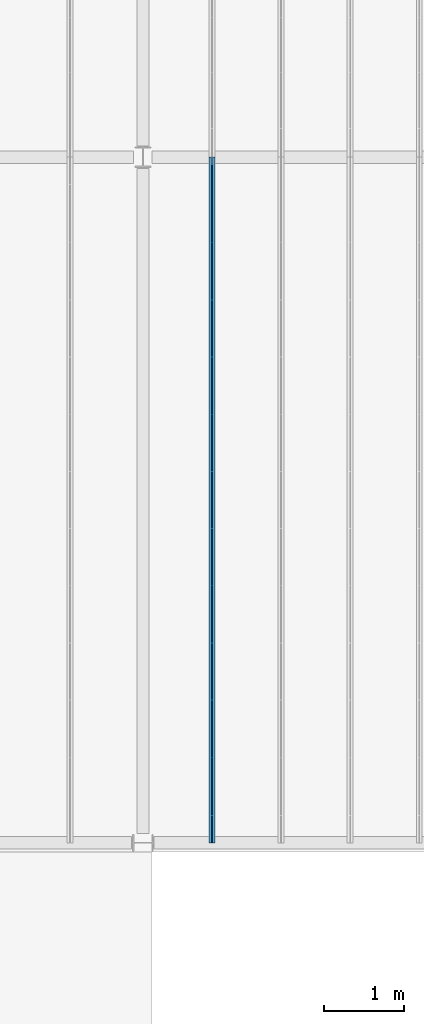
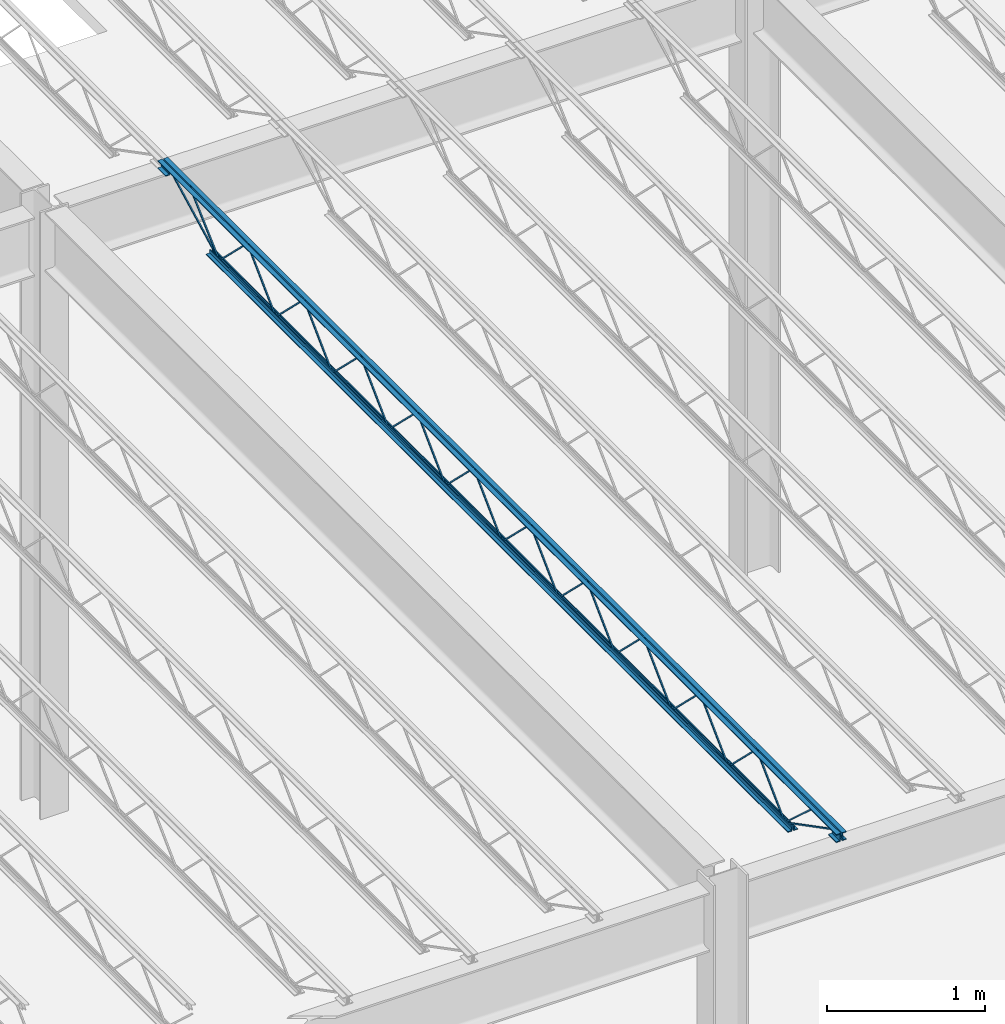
# One storey, part 46 of 119: 1 beam.
"""IFC2X3 building model written with IfcOpenShell, lengths in metres."""

import ifcopenshell
import ifcopenshell.guid

model = None  # the IFC model being written
_history = None  # IfcOwnerHistory: only IFC2X3 demands one
_inside = {}  # id of a spatial element -> (the spatial element, [elements in it])
_under = {}  # id of a project, library or spatial element -> (it, [spatial elements below it])
_declared = {}  # id of a project -> (the project, [libraries it declares])
_typed = {}  # id of a type object -> (the type object, [elements of that type])
_made_of = {}  # id of a material, layer set ... -> (it, [elements and type objects made of it])


def new_model(schema):
    """Start an empty IFC model of exactly this schema.

    Asked for "IFC4X3", IfcOpenShell would pick the latest addendum, in which some entities
    have other attributes; the version numbers below select the first issue.
    IFC2X3 requires an IfcOwnerHistory on every rooted entity: one is made here for all.
    """
    global model, _history
    if schema == "IFC4X3":
        model = ifcopenshell.file(schema_version=(4, 3, 0, 0))
    else:
        model = ifcopenshell.file(schema=schema)
    _inside.clear()
    _under.clear()
    _declared.clear()
    _typed.clear()
    _made_of.clear()
    _history = None
    if model.schema == "IFC2X3":
        org = make("IfcOrganization", Name="unknown")
        user = make(
            "IfcPersonAndOrganization",
            ThePerson=make("IfcPerson", FamilyName="unknown"),
            TheOrganization=org,
        )
        app = make(
            "IfcApplication",
            ApplicationDeveloper=org,
            Version="unknown",
            ApplicationFullName="unknown",
            ApplicationIdentifier="unknown",
        )
        _history = make(
            "IfcOwnerHistory",
            OwningUser=user,
            OwningApplication=app,
            ChangeAction="ADDED",
            CreationDate=0,
        )
    return model


def make(cls, **values):
    """One entity of the class cls with the attributes given. An attribute that is None is left unset."""
    return model.create_entity(
        cls, **{name: value for name, value in values.items() if value is not None}
    )


def entity(cls, *values):
    """Any entity or typed value of the class cls, its attributes in the order of the schema. None: left unset."""
    e = model.create_entity(cls)
    for i, value in enumerate(values):
        if value is not None:
            e[i] = value
    return e


def rooted(cls, **values):
    """An entity with a GlobalId (a new one), such as an element, a storey or a relation."""
    return make(cls, GlobalId=ifcopenshell.guid.new(), OwnerHistory=_history, **values)


def si_unit(unit_type, name, prefix=None):
    """IfcSIUnit, for example si_unit("LENGTHUNIT", "METRE", prefix="MILLI")."""
    return make("IfcSIUnit", UnitType=unit_type, Prefix=prefix, Name=name)


def converted_unit(unit_type, name, factor, base, dimensions=None, offset=None):
    """IfcConversionBasedUnit, such as the inch: factor (a typed value) times the base unit."""
    return make(
        "IfcConversionBasedUnit"
        if offset is None
        else "IfcConversionBasedUnitWithOffset",
        ConversionOffset=offset,
        Dimensions=None
        if dimensions is None
        else entity("IfcDimensionalExponents", *dimensions),
        UnitType=unit_type,
        Name=name,
        ConversionFactor=make(
            "IfcMeasureWithUnit", ValueComponent=factor, UnitComponent=base
        ),
    )


def assignment(units):
    """IfcUnitAssignment: the units of a project."""
    return None if units is None else make("IfcUnitAssignment", Units=units)


def point(xyz):
    """IfcCartesianPoint."""
    return None if xyz is None else make("IfcCartesianPoint", Coordinates=xyz)


def direction(xyz):
    """IfcDirection."""
    return None if xyz is None else make("IfcDirection", DirectionRatios=xyz)


def frame(location, z_axis=None, x_axis=None):
    """IfcAxis2Placement3D, a coordinate frame: its origin and axes. An axis left out is left unset."""
    return make(
        "IfcAxis2Placement3D",
        Location=point(location),
        Axis=direction(z_axis),
        RefDirection=direction(x_axis),
    )


def origin():
    """The frame at (0, 0, 0) with its axes left unset."""
    return frame((0.0, 0.0, 0.0))


def place(relative_to, where):
    """IfcLocalPlacement: puts the frame where relative to a parent placement (None: the world)."""
    return make(
        "IfcLocalPlacement", PlacementRelTo=relative_to, RelativePlacement=where
    )


def context(
    kind, dimensions, precision=None, world=None, true_north=None, identifier=None
):
    """IfcGeometricRepresentationContext, for example the 3D "Model" context."""
    return make(
        "IfcGeometricRepresentationContext",
        ContextIdentifier=identifier,
        ContextType=kind,
        CoordinateSpaceDimension=dimensions,
        Precision=precision,
        WorldCoordinateSystem=world,
        TrueNorth=true_north,
    )


def project(units=None, contexts=None):
    """IfcProject with its units and contexts."""
    return rooted(
        "IfcProject",
        Name="project",
        RepresentationContexts=contexts,
        UnitsInContext=assignment(units),
    )


def spatial(cls, under=None, at=None, **own):
    """A site, building, storey or space (cls), placed at a placement, below another one or the project."""
    s = rooted(cls, ObjectPlacement=at, **own)
    if under is not None:
        _under.setdefault(under.id(), (under, []))[1].append(s)
    return s


def faces_of(points, faces, orient=None, outer=None):
    """IfcFace entities. A face is a list of loops; a loop is a list of indices into points, from 0.

    orient and outer hold one flag for each loop. By default every Orientation is true, the
    first loop of a face is its IfcFaceOuterBound and the others are IfcFaceBound.
    """
    made = []
    for i, loops in enumerate(faces):
        bounds = []
        for j, loop in enumerate(loops):
            is_outer = j == 0 if outer is None else outer[i][j]
            bounds.append(
                make(
                    "IfcFaceOuterBound" if is_outer else "IfcFaceBound",
                    Bound=make("IfcPolyLoop", Polygon=[points[k] for k in loop]),
                    Orientation=True if orient is None else orient[i][j],
                )
            )
        made.append(make("IfcFace", Bounds=bounds))
    return made


def face_set(faces, orient=None, outer=None):
    """The faces of one IfcConnectedFaceSet. surface_model builds it on its shared points."""
    return ("IfcConnectedFaceSet", faces, orient, outer)


def surface_model(cls, points, shells):
    """IfcFaceBasedSurfaceModel or IfcShellBasedSurfaceModel (cls): surfaces that need not close."""
    shared = [point(p) for p in points]
    made = [make(c, CfsFaces=faces_of(shared, fs, o, b)) for c, fs, o, b in shells]
    if cls == "IfcFaceBasedSurfaceModel":
        return make(cls, FbsmFaces=made)
    return make(cls, SbsmBoundary=made)


def shape(context_of_items, identifier, shape_type, items):
    """IfcShapeRepresentation: the items that make up one representation, for example the "Body"."""
    return make(
        "IfcShapeRepresentation",
        ContextOfItems=context_of_items,
        RepresentationIdentifier=identifier,
        RepresentationType=shape_type,
        Items=items,
    )


def made_of(thing, what):
    """Note that an element or type object is made of a material, layer set ...; save() writes the relation."""
    if what is not None:
        _made_of.setdefault(what.id(), (what, []))[1].append(thing)
    return thing


def element(
    cls,
    number,
    at=None,
    inside=None,
    cuts=None,
    type_object=None,
    material=None,
    context=None,
    identifier="Body",
    shape_type=None,
    held_by="IfcProductDefinitionShape",
    body=None,
    shapes=None,
    **own,
):
    """One element of the class cls, such as IfcWall. Its Tag is "e" and its number.

    at: its placement. inside: the storey or other place that contains it. cuts: it is an
    opening in that element (IfcRelVoidsElement). A single representation is given by context,
    identifier, shape_type and body (its items); several are given by shapes. held_by: the class
    of the entity that holds the representations. save() writes the other relations.
    """
    e = rooted(cls, Tag="e%d" % number, ObjectPlacement=at, **own)
    if body is not None:
        shapes = [shape(context, identifier, shape_type, body)]
    if shapes is not None:
        e.Representation = make(held_by, Representations=shapes)
    if inside is not None:
        _inside.setdefault(inside.id(), (inside, []))[1].append(e)
    if cuts is not None:
        rooted(
            "IfcRelVoidsElement", RelatingBuildingElement=cuts, RelatedOpeningElement=e
        )
    if type_object is not None:
        _typed.setdefault(type_object.id(), (type_object, []))[1].append(e)
    return made_of(e, material)


def aggregate(whole, parts):
    """IfcRelAggregates: a whole, such as a stair, and the parts it consists of."""
    return rooted("IfcRelAggregates", RelatingObject=whole, RelatedObjects=parts)


def save(model, path):
    """Write the relations noted so far, then the file.

    IfcRelAggregates (storeys below a building ...), IfcRelContainedInSpatialStructure (elements
    in a storey), IfcRelDefinesByType, IfcRelAssociatesMaterial and IfcRelDeclares: one each for
    every whole, place, type object, material and project.
    """
    for whole, parts in _under.values():
        aggregate(whole, parts)
    for where, things in _inside.values():
        rooted(
            "IfcRelContainedInSpatialStructure",
            RelatedElements=things,
            RelatingStructure=where,
        )
    for kind, things in _typed.values():
        rooted("IfcRelDefinesByType", RelatedObjects=things, RelatingType=kind)
    for what, things in _made_of.values():
        rooted("IfcRelAssociatesMaterial", RelatedObjects=things, RelatingMaterial=what)
    for by, libraries in _declared.values():
        rooted("IfcRelDeclares", RelatingContext=by, RelatedDefinitions=libraries)
    model.write(path)


model = new_model("IFC2X3")

# Units and contexts
model_context = context("Model", 3, precision=1e-09, world=origin())
plan_context = context("Plan", 3, precision=1e-09, world=origin())
ifc_project = project(units=[si_unit("LENGTHUNIT", "METRE"), si_unit("AREAUNIT", "SQUARE_METRE"), si_unit("VOLUMEUNIT", "CUBIC_METRE"), converted_unit("PLANEANGLEUNIT", "DEGREE", entity("IfcRatioMeasure", 0.01745329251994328), si_unit("PLANEANGLEUNIT", "RADIAN"), dimensions=[0, 0, 0, 0, 0, 0, 0]), si_unit("TIMEUNIT", "SECOND")], contexts=[model_context, plan_context])

# Site, building, storey
site_placement = place(None, origin())
site = spatial("IfcSite", under=ifc_project, at=site_placement, Name="Default", CompositionType="ELEMENT")
building_placement = place(site_placement, origin())
building = spatial("IfcBuilding", under=site, at=building_placement, CompositionType="ELEMENT")
storey_placement = place(building_placement, frame((0.0, 0.0, 4.570000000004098)))
storey = spatial("IfcBuildingStorey", under=building, at=storey_placement, Name="Second Floor", CompositionType="ELEMENT", Elevation=4.570000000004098)

# Beam
beam_placement = place(storey_placement, frame((-19.23341250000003, 10.03999999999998, 4.323999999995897)))
element("IfcBeam", 1, at=beam_placement, inside=storey, Name="M_K-Series Bar Joist-Rod Web:14K1:14K1", ObjectType="M_K-Series Bar Joist-Rod Web:14K1", context=model_context, shape_type="SurfaceModel", body=[
    surface_model("IfcFaceBasedSurfaceModel", [(0.04150000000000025, 6.428799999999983, 0.01110000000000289), (0.03200000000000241, 6.428799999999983, 0.01110000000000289), (0.03200000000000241, 6.428799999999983, 0.001600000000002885), (0.04150000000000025, 6.428799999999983, 0.001600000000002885), (0.03200000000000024, 6.430038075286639, 0.01110000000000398), (0.04150000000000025, 6.430038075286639, 0.01110000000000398), (0.0320000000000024, 6.433911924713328, 0.001600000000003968), (0.03200000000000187, 6.784861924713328, 0.3449000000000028), (0.03200000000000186, 6.787338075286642, 0.3449000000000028), (0.03200000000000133, 7.138288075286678, 0.001600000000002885), (0.03200000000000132, 7.143399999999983, 0.001600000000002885), (0.03200000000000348, 7.143399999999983, 0.01110000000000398), (0.03200000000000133, 7.142161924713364, 0.01110000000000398), (0.03200000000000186, 6.791211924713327, 0.3544000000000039), (0.03200000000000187, 6.780988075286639, 0.3544000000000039), (0.0415000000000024, 6.433911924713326, 0.001600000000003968), (0.0414999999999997, 6.784861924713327, 0.3449000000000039), (0.0414999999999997, 6.78733807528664, 0.3449000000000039), (0.04149999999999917, 7.138288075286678, 0.001600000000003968), (0.04149999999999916, 7.143399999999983, 0.001600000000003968), (0.04149999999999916, 7.143399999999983, 0.01110000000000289), (0.04149999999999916, 7.142161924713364, 0.01110000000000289), (0.0414999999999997, 6.79121192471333, 0.3544000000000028), (0.04149999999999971, 6.780988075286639, 0.3544000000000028), (0.04149999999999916, 5.714199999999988, 0.01110000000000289), (0.03200000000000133, 5.714199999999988, 0.01110000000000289), (0.03200000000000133, 5.714199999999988, 0.001600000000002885), (0.04149999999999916, 5.714199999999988, 0.001600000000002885), (0.03199999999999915, 5.715438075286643, 0.01110000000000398), (0.04149999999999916, 5.715438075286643, 0.01110000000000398), (0.03200000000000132, 5.71931192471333, 0.001600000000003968), (0.03200000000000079, 6.07026192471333, 0.3449000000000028), (0.03200000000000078, 6.072738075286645, 0.3449000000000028), (0.03200000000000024, 6.423688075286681, 0.001600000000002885), (0.03200000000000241, 6.428799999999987, 0.001600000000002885), (0.03200000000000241, 6.428799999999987, 0.01110000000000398), (0.03200000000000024, 6.427561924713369, 0.01110000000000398), (0.03200000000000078, 6.076611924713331, 0.3544000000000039), (0.03200000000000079, 6.066388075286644, 0.3544000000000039), (0.04150000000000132, 5.71931192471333, 0.001600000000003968), (0.04149999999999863, 6.07026192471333, 0.3449000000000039), (0.04149999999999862, 6.072738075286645, 0.3449000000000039), (0.04149999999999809, 6.423688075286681, 0.001600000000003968), (0.04149999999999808, 6.428799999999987, 0.001600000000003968), (0.04150000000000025, 6.428799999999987, 0.01110000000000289), (0.04150000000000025, 6.427561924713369, 0.01110000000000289), (0.04149999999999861, 6.076611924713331, 0.3544000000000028), (0.04149999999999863, 6.066388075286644, 0.3544000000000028), (0.04150000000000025, 4.999599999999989, 0.01110000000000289), (0.03200000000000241, 4.999599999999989, 0.01110000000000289), (0.03200000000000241, 4.999599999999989, 0.001600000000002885), (0.04150000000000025, 4.999599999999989, 0.001600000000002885), (0.03200000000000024, 5.000838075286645, 0.01110000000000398), (0.04150000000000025, 5.000838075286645, 0.01110000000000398), (0.0320000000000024, 5.004711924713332, 0.001600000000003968), (0.03200000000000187, 5.355661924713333, 0.3449000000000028), (0.03200000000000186, 5.358138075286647, 0.3449000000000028), (0.03200000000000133, 5.709088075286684, 0.001600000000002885), (0.03200000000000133, 5.714199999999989, 0.001600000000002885), (0.03200000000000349, 5.714199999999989, 0.01110000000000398), (0.03200000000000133, 5.712961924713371, 0.01110000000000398), (0.03200000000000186, 5.362011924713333, 0.3544000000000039), (0.03200000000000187, 5.351788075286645, 0.3544000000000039), (0.04150000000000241, 5.004711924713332, 0.001600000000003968), (0.04149999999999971, 5.355661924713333, 0.3449000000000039), (0.0414999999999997, 5.358138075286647, 0.3449000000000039), (0.04149999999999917, 5.709088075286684, 0.001600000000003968), (0.04149999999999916, 5.714199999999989, 0.001600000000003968), (0.04149999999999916, 5.714199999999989, 0.01110000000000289), (0.04149999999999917, 5.712961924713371, 0.01110000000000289), (0.0414999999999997, 5.362011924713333, 0.3544000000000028), (0.04149999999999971, 5.351788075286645, 0.3544000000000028), (0.04149999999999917, 4.284999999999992, 0.01110000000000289), (0.03200000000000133, 4.284999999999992, 0.01110000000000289), (0.03200000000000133, 4.284999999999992, 0.001600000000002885), (0.04149999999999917, 4.284999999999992, 0.001600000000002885), (0.03199999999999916, 4.286238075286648, 0.01110000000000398), (0.04149999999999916, 4.286238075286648, 0.01110000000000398), (0.03200000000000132, 4.290111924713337, 0.001600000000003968), (0.03200000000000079, 4.641061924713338, 0.3449000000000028), (0.03200000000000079, 4.643538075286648, 0.3449000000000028), (0.03200000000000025, 4.994488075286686, 0.001600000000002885), (0.03200000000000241, 4.999599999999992, 0.001600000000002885), (0.03200000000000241, 4.999599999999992, 0.01110000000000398), (0.03200000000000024, 4.998361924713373, 0.01110000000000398), (0.03200000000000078, 4.647411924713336, 0.3544000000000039), (0.03200000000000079, 4.637188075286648, 0.3544000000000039), (0.04150000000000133, 4.290111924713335, 0.001600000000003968), (0.04149999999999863, 4.641061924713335, 0.3449000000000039), (0.04149999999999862, 4.643538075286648, 0.3449000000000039), (0.04149999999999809, 4.994488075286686, 0.001600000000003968), (0.04149999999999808, 4.999599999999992, 0.001600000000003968), (0.04150000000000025, 4.999599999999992, 0.01110000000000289), (0.04149999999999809, 4.998361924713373, 0.01110000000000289), (0.04149999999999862, 4.647411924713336, 0.3544000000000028), (0.04149999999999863, 4.637188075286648, 0.3544000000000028), (0.04149999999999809, 3.570399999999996, 0.01110000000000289), (0.03200000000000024, 3.570399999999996, 0.01110000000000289), (0.03200000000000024, 3.570399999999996, 0.001600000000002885), (0.04149999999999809, 3.570399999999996, 0.001600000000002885), (0.03199999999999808, 3.571638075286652, 0.01110000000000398), (0.04149999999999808, 3.571638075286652, 0.01110000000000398), (0.0320000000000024, 3.575511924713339, 0.001600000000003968), (0.03200000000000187, 3.926461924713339, 0.3449000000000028), (0.03200000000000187, 3.928938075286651, 0.3449000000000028), (0.03200000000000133, 4.279888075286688, 0.001600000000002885), (0.03200000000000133, 4.284999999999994, 0.001600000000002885), (0.03200000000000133, 4.284999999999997, 0.01110000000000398), (0.03199999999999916, 4.283761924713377, 0.01110000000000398), (0.0319999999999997, 3.93281192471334, 0.3544000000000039), (0.03199999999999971, 3.922588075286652, 0.3544000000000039), (0.04150000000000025, 3.575511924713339, 0.001600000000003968), (0.04149999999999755, 3.926461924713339, 0.3449000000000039), (0.04149999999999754, 3.928938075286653, 0.3449000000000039), (0.04149999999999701, 4.27988807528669, 0.001600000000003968), (0.04149999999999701, 4.284999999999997, 0.001600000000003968), (0.04149999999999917, 4.284999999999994, 0.01110000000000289), (0.04149999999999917, 4.283761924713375, 0.01110000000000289), (0.0414999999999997, 3.932811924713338, 0.3544000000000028), (0.04149999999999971, 3.922588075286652, 0.3544000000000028), (0.04149999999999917, 2.855799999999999, 0.01110000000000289), (0.03200000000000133, 2.855799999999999, 0.01110000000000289), (0.03200000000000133, 2.855799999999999, 0.001600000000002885), (0.04149999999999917, 2.855799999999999, 0.001600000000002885), (0.03199999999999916, 2.857038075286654, 0.01110000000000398), (0.04149999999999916, 2.857038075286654, 0.01110000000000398), (0.03200000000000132, 2.860911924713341, 0.001600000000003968), (0.03200000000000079, 3.211861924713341, 0.3449000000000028), (0.03200000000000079, 3.214338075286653, 0.3449000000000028), (0.03200000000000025, 3.56528807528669, 0.001600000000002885), (0.03200000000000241, 3.570399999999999, 0.01110000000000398), (0.03200000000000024, 3.56916192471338, 0.01110000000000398), (0.03200000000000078, 3.218211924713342, 0.3544000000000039), (0.03200000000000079, 3.207988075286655, 0.3544000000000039), (0.04150000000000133, 2.860911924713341, 0.001600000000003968), (0.04149999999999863, 3.211861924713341, 0.3449000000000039), (0.04149999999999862, 3.214338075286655, 0.3449000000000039), (0.04149999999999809, 3.565288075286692, 0.001600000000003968), (0.04149999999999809, 3.570399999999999, 0.001600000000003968), (0.04149999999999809, 3.569161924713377, 0.01110000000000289), (0.04149999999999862, 3.21821192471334, 0.3544000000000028), (0.04149999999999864, 3.207988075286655, 0.3544000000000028), (0.04149999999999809, 2.1412, 0.01110000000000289), (0.03200000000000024, 2.1412, 0.01110000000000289), (0.03200000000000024, 2.1412, 0.001600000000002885), (0.04149999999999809, 2.1412, 0.001600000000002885), (0.03199999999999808, 2.142438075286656, 0.01110000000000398), (0.04149999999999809, 2.142438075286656, 0.01110000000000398), (0.0320000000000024, 2.146311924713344, 0.001600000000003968), (0.03200000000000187, 2.497261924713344, 0.3449000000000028), (0.03200000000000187, 2.499738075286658, 0.3449000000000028), (0.03200000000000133, 2.850688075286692, 0.001600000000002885), (0.03200000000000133, 2.8558, 0.001600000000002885), (0.03200000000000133, 2.8558, 0.01110000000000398), (0.03199999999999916, 2.854561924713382, 0.01110000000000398), (0.0319999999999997, 2.503611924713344, 0.3544000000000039), (0.03199999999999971, 2.493388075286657, 0.3544000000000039), (0.04150000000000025, 2.146311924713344, 0.001600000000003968), (0.04149999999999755, 2.497261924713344, 0.3449000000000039), (0.04149999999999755, 2.499738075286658, 0.3449000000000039), (0.04149999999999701, 2.850688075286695, 0.001600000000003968), (0.04149999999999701, 2.8558, 0.001600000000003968), (0.04149999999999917, 2.8558, 0.01110000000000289), (0.04149999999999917, 2.854561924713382, 0.01110000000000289), (0.0414999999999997, 2.503611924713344, 0.3544000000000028), (0.04149999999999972, 2.493388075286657, 0.3544000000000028), (0.04149999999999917, 1.426600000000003, 0.01110000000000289), (0.03200000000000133, 1.426600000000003, 0.01110000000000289), (0.03200000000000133, 1.426600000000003, 0.001600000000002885), (0.04149999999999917, 1.426600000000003, 0.001600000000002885), (0.03199999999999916, 1.427838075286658, 0.01110000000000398), (0.04149999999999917, 1.427838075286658, 0.01110000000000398), (0.03200000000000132, 1.431711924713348, 0.001600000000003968), (0.03200000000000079, 1.782661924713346, 0.3449000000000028), (0.03200000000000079, 1.78513807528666, 0.3449000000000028), (0.03200000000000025, 2.136088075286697, 0.001600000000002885), (0.03200000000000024, 2.141200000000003, 0.001600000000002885), (0.03200000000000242, 2.141200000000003, 0.01110000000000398), (0.03200000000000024, 2.139961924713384, 0.01110000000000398), (0.03200000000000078, 1.789011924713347, 0.3544000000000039), (0.03200000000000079, 1.778788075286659, 0.3544000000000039), (0.04150000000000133, 1.431711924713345, 0.001600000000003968), (0.04149999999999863, 1.782661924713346, 0.3449000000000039), (0.04149999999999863, 1.78513807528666, 0.3449000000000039), (0.04149999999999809, 2.136088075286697, 0.001600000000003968), (0.04149999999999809, 2.141200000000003, 0.001600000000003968), (0.04149999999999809, 2.141200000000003, 0.01110000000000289), (0.04149999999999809, 2.139961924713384, 0.01110000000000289), (0.04149999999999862, 1.789011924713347, 0.3544000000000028), (0.04149999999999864, 1.778788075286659, 0.3544000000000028), (0.04150000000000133, 7.143399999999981, 0.01109999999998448), (0.03200000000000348, 7.143399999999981, 0.01109999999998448), (0.03200000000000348, 7.143399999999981, 0.001599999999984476), (0.04150000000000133, 7.143399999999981, 0.001599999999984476), (0.03200000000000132, 7.144638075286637, 0.01109999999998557), (0.04150000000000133, 7.144638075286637, 0.01109999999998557), (0.03200000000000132, 7.148511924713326, 0.001599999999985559), (0.03200000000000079, 7.499461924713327, 0.3448999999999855), (0.03200000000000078, 7.50193807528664, 0.3448999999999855), (0.03200000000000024, 7.852888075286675, 0.001599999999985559), (0.03200000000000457, 7.857999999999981, 0.001599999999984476), (0.0320000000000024, 7.857999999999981, 0.01109999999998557), (0.03200000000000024, 7.856761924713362, 0.01109999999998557), (0.03200000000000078, 7.505811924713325, 0.3543999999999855), (0.03200000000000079, 7.495588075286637, 0.3543999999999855), (0.04150000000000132, 7.148511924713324, 0.001599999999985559), (0.04150000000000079, 7.499461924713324, 0.3448999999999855), (0.04150000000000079, 7.501938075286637, 0.3448999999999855), (0.04150000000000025, 7.852888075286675, 0.001599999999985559), (0.04150000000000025, 7.857999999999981, 0.001599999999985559), (0.04150000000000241, 7.857999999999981, 0.01109999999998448), (0.04150000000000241, 7.856761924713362, 0.01109999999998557), (0.04150000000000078, 7.505811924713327, 0.3543999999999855), (0.04150000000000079, 7.495588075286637, 0.3543999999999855), (0.04149999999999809, 0.712000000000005, 0.01110000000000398), (0.03200000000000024, 0.712000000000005, 0.01110000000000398), (0.03200000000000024, 0.712000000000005, 0.001600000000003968), (0.04149999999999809, 0.712000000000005, 0.001600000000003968), (0.03199999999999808, 0.7132380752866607, 0.01110000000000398), (0.04149999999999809, 0.7132380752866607, 0.01110000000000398), (0.0320000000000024, 0.7171119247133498, 0.001600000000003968), (0.03200000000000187, 1.068061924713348, 0.3449000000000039), (0.03200000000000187, 1.070538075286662, 0.3449000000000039), (0.03200000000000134, 1.421488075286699, 0.001600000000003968), (0.03200000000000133, 1.426600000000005, 0.001600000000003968), (0.03200000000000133, 1.426600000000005, 0.01110000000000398), (0.03199999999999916, 1.425361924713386, 0.01110000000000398), (0.0319999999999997, 1.074411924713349, 0.3544000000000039), (0.03199999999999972, 1.064188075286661, 0.3544000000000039), (0.04150000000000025, 0.7171119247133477, 0.001600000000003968), (0.04149999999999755, 1.068061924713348, 0.3449000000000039), (0.04149999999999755, 1.070538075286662, 0.3449000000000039), (0.04149999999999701, 1.421488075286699, 0.001600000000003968), (0.04149999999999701, 1.426600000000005, 0.001600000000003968), (0.04149999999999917, 1.426600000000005, 0.01110000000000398), (0.04149999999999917, 1.425361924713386, 0.01110000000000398), (0.0414999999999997, 1.074411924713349, 0.3544000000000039), (0.04149999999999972, 1.064188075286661, 0.3544000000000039), (0.03199999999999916, 8.569999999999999, 0.3559999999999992), (0.0, 8.569999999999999, 0.3559999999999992), (0.0, 8.569999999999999, 0.3494999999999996), (0.02549999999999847, 8.569999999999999, 0.3494999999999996), (0.02549999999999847, 8.569999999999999, 0.3239999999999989), (0.03199999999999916, 8.569999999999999, 0.3239999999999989), (0.04149999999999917, 8.569999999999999, 0.3559999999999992), (0.04149999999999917, 8.569999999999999, 0.3239999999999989), (0.04799999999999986, 8.569999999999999, 0.3239999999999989), (0.04799999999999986, 8.569999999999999, 0.3494999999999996), (0.07349999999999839, 8.569999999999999, 0.3494999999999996), (0.07349999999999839, 8.569999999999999, 0.3559999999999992), (0.03199999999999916, 0.0, 0.3559999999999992), (0.0, 0.0, 0.3559999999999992), (0.0, 0.0, 0.3494999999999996), (0.02549999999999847, 0.0, 0.3494999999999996), (0.02549999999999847, 0.0, 0.3239999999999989), (0.03199999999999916, 0.0, 0.3239999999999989), (0.04149999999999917, 0.0, 0.3559999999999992), (0.04149999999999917, 0.0, 0.3239999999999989), (0.04799999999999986, 0.0, 0.3239999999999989), (0.04799999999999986, 0.0, 0.3494999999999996), (0.07349999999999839, 0.0, 0.3494999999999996), (0.07349999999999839, 0.0, 0.3559999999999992), (0.04149999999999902, 0.0999999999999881, 0.2924999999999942), (0.07349999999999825, 0.0999999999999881, 0.2924999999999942), (0.07349999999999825, 0.0999999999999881, 0.2989999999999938), (0.0479999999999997, 0.0999999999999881, 0.2989999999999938), (0.0479999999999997, 0.0999999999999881, 0.3239999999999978), (0.04149999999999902, 0.0999999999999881, 0.3239999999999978), (0.0, 0.0999999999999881, 0.2924999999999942), (0.03199999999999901, 0.0999999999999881, 0.2924999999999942), (0.03199999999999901, 0.0999999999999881, 0.3239999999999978), (0.02549999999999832, 0.0999999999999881, 0.3239999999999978), (0.02549999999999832, 0.0999999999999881, 0.2989999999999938), (0.0, 0.0999999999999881, 0.2989999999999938), (0.04149999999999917, 0.0, 0.2924999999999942), (0.07349999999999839, 0.0, 0.2924999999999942), (0.07349999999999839, 0.0, 0.2989999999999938), (0.04799999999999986, 0.0, 0.2989999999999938), (0.04799999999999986, 0.0, 0.3239999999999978), (0.04149999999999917, 0.0, 0.3239999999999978), (0.0, 0.0, 0.2924999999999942), (0.03199999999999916, 0.0, 0.2924999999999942), (0.03199999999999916, 0.0, 0.3239999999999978), (0.02549999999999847, 0.0, 0.3239999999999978), (0.02549999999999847, 0.0, 0.2989999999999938), (0.0, 0.0, 0.2989999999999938), (0.03199999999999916, 8.569999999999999, 0.2924999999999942), (0.03199999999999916, 8.569999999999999, 0.3239999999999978), (0.02550000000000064, 8.569999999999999, 0.3239999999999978), (0.02550000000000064, 8.569999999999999, 0.2989999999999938), (0.0, 8.569999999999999, 0.2989999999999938), (0.0, 8.569999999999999, 0.2924999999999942), (0.04149999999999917, 8.569999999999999, 0.2924999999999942), (0.07350000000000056, 8.569999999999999, 0.2924999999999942), (0.07350000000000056, 8.569999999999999, 0.2989999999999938), (0.04799999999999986, 8.569999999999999, 0.2989999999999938), (0.04799999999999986, 8.569999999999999, 0.3239999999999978), (0.04149999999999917, 8.569999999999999, 0.3239999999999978), (0.03199999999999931, 8.47, 0.2924999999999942), (0.03199999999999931, 8.47, 0.3239999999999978), (0.02550000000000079, 8.47, 0.3239999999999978), (0.02550000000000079, 8.47, 0.2989999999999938), (0.0, 8.47, 0.2989999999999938), (0.0, 8.47, 0.2924999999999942), (0.04149999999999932, 8.47, 0.2924999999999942), (0.0735000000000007, 8.47, 0.2924999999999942), (0.0735000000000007, 8.47, 0.2989999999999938), (0.048, 8.47, 0.2989999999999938), (0.048, 8.47, 0.3239999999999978), (0.04149999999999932, 8.47, 0.3239999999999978), (0.03200000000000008, 7.958000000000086, 0.0), (0.03200000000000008, 7.958000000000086, 0.03199999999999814), (0.0254999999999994, 7.958000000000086, 0.03199999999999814), (0.0254999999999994, 7.958000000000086, 0.006499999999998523), (0.0, 7.958000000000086, 0.006499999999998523), (0.0, 7.958000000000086, 0.0), (0.04150000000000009, 7.958000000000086, 0.0), (0.07349999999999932, 7.958000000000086, 0.0), (0.07349999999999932, 7.958000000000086, 0.006499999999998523), (0.04800000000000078, 7.958000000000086, 0.006499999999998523), (0.04800000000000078, 7.958000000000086, 0.03199999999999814), (0.04150000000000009, 7.958000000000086, 0.03199999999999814), (0.03199999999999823, 0.6120000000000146, 0.0), (0.03199999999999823, 0.6120000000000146, 0.03199999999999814), (0.02549999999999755, 0.6120000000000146, 0.03199999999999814), (0.02549999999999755, 0.6120000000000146, 0.006499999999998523), (0.0, 0.6120000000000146, 0.006499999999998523), (0.0, 0.6120000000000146, 0.0), (0.04149999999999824, 0.6120000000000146, 0.0), (0.07349999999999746, 0.6120000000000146, 0.0), (0.07349999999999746, 0.6120000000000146, 0.006499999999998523), (0.04799999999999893, 0.6120000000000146, 0.006499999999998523), (0.04799999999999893, 0.6120000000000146, 0.03199999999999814), (0.04149999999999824, 0.6120000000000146, 0.03199999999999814), (0.04150000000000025, 0.7141882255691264, 0.01056594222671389), (0.03200000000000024, 0.7141882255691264, 0.01056594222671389), (0.03200000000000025, 0.7098117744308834, 0.002134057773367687), (0.04149999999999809, 0.7098117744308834, 0.00213405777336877), (0.04150000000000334, 0.1011592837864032, 0.3287499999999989), (0.0415000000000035, 0.0, 0.3287499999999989), (0.04150000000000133, 0.0, 0.3192499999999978), (0.04150000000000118, 0.09884071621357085, 0.3192499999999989), (0.03200000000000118, 0.09884071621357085, 0.3192499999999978), (0.03200000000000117, 0.1011592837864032, 0.3287499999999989), (0.03200000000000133, 0.0, 0.3287499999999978), (0.03200000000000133, 0.0, 0.3192499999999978), (0.04149999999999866, 0.3347428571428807, 0.3417000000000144), (0.03200000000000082, 0.3347428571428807, 0.3417000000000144), (0.03200000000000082, 0.3347428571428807, 0.3322000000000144), (0.04149999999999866, 0.3347428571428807, 0.3322000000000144), (0.03199999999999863, 0.349275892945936, 0.3417000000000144), (0.04149999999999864, 0.3492758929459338, 0.3417000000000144), (0.0320000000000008, 0.3456098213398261, 0.3322000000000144), (0.03200000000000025, 0.7088091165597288, 0.002831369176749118), (0.03200000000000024, 0.7151908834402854, 0.009868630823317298), (0.04150000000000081, 0.3456098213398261, 0.3322000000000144), (0.04149999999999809, 0.708809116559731, 0.002831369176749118), (0.04150000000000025, 0.7151908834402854, 0.009868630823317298), (0.04150000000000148, 8.472188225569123, 0.3197840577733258), (0.04149999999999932, 8.467811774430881, 0.328215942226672), (0.03199999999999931, 8.467811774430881, 0.328215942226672), (0.03200000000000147, 8.472188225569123, 0.3197840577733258), (0.04150000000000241, 7.860188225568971, 0.002134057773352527), (0.04150000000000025, 7.855811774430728, 0.01056594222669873), (0.03200000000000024, 7.855811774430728, 0.01056594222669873), (0.0320000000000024, 7.860188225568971, 0.002134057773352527), (0.04150000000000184, 8.233036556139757, 0.3461600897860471), (0.04149999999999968, 8.22659201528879, 0.3531399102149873), (0.03199999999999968, 8.22659201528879, 0.3531399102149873), (0.03200000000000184, 8.233036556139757, 0.3461600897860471), (0.04150000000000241, 7.86122227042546, 0.00286008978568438), (0.04150000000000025, 7.854777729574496, 0.009839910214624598), (0.03200000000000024, 7.854777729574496, 0.009839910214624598), (0.0320000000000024, 7.86122227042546, 0.00286008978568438)], [face_set([[[0, 1, 2, 3]], [[1, 4, 5, 0]], [[2, 6, 7, 8, 9, 10, 11, 12, 13, 14, 4, 1]], [[3, 2, 6, 15]], [[0, 3, 15, 16, 17, 18, 19, 20, 21, 22, 23, 5]], [[4, 5, 23, 14]], [[15, 16, 7, 6]], [[14, 13, 22, 23]], [[16, 7, 8, 17]], [[13, 12, 21, 22]], [[17, 8, 9, 18]], [[20, 11, 10, 19]], [[12, 11, 20, 21]], [[18, 9, 10, 19]]]), face_set([[[24, 25, 26, 27]], [[25, 28, 29, 24]], [[26, 30, 31, 32, 33, 34, 35, 36, 37, 38, 28, 25]], [[27, 26, 30, 39]], [[24, 27, 39, 40, 41, 42, 43, 44, 45, 46, 47, 29]], [[28, 29, 47, 38]], [[39, 40, 31, 30]], [[38, 37, 46, 47]], [[40, 31, 32, 41]], [[37, 36, 45, 46]], [[41, 32, 33, 42]], [[44, 35, 34, 43]], [[36, 35, 44, 45]], [[42, 33, 34, 43]]]), face_set([[[48, 49, 50, 51]], [[49, 52, 53, 48]], [[50, 54, 55, 56, 57, 58, 59, 60, 61, 62, 52, 49]], [[51, 50, 54, 63]], [[48, 51, 63, 64, 65, 66, 67, 68, 69, 70, 71, 53]], [[52, 53, 71, 62]], [[63, 64, 55, 54]], [[62, 61, 70, 71]], [[64, 55, 56, 65]], [[61, 60, 69, 70]], [[65, 56, 57, 66]], [[68, 59, 58, 67]], [[60, 59, 68, 69]], [[66, 57, 58, 67]]]), face_set([[[72, 73, 74, 75]], [[73, 76, 77, 72]], [[74, 78, 79, 80, 81, 82, 83, 84, 85, 86, 76, 73]], [[75, 74, 78, 87]], [[72, 75, 87, 88, 89, 90, 91, 92, 93, 94, 95, 77]], [[76, 77, 95, 86]], [[87, 88, 79, 78]], [[86, 85, 94, 95]], [[88, 79, 80, 89]], [[85, 84, 93, 94]], [[89, 80, 81, 90]], [[92, 83, 82, 91]], [[84, 83, 92, 93]], [[90, 81, 82, 91]]]), face_set([[[96, 97, 98, 99]], [[97, 100, 101, 96]], [[98, 102, 103, 104, 105, 106, 107, 108, 109, 110, 100, 97]], [[99, 98, 102, 111]], [[96, 99, 111, 112, 113, 114, 115, 116, 117, 118, 119, 101]], [[100, 101, 119, 110]], [[111, 112, 103, 102]], [[110, 109, 118, 119]], [[112, 103, 104, 113]], [[109, 108, 117, 118]], [[113, 104, 105, 114]], [[116, 107, 106, 115]], [[108, 107, 116, 117]], [[114, 105, 106, 115]]]), face_set([[[120, 121, 122, 123]], [[121, 124, 125, 120]], [[122, 126, 127, 128, 129, 98, 130, 131, 132, 133, 124, 121]], [[123, 122, 126, 134]], [[120, 123, 134, 135, 136, 137, 138, 96, 139, 140, 141, 125]], [[124, 125, 141, 133]], [[134, 135, 127, 126]], [[133, 132, 140, 141]], [[135, 127, 128, 136]], [[132, 131, 139, 140]], [[136, 128, 129, 137]], [[96, 130, 98, 138]], [[131, 130, 96, 139]], [[137, 129, 98, 138]]]), face_set([[[142, 143, 144, 145]], [[143, 146, 147, 142]], [[144, 148, 149, 150, 151, 152, 153, 154, 155, 156, 146, 143]], [[145, 144, 148, 157]], [[142, 145, 157, 158, 159, 160, 161, 162, 163, 164, 165, 147]], [[146, 147, 165, 156]], [[157, 158, 149, 148]], [[156, 155, 164, 165]], [[158, 149, 150, 159]], [[155, 154, 163, 164]], [[159, 150, 151, 160]], [[162, 153, 152, 161]], [[154, 153, 162, 163]], [[160, 151, 152, 161]]]), face_set([[[166, 167, 168, 169]], [[167, 170, 171, 166]], [[168, 172, 173, 174, 175, 176, 177, 178, 179, 180, 170, 167]], [[169, 168, 172, 181]], [[166, 169, 181, 182, 183, 184, 185, 186, 187, 188, 189, 171]], [[170, 171, 189, 180]], [[181, 182, 173, 172]], [[180, 179, 188, 189]], [[182, 173, 174, 183]], [[179, 178, 187, 188]], [[183, 174, 175, 184]], [[186, 177, 176, 185]], [[178, 177, 186, 187]], [[184, 175, 176, 185]]]), face_set([[[190, 191, 192, 193]], [[191, 194, 195, 190]], [[192, 196, 197, 198, 199, 200, 201, 202, 203, 204, 194, 191]], [[193, 192, 196, 205]], [[190, 193, 205, 206, 207, 208, 209, 210, 211, 212, 213, 195]], [[194, 195, 213, 204]], [[205, 206, 197, 196]], [[204, 203, 212, 213]], [[206, 197, 198, 207]], [[203, 202, 211, 212]], [[207, 198, 199, 208]], [[210, 201, 200, 209]], [[202, 201, 210, 211]], [[208, 199, 200, 209]]]), face_set([[[214, 215, 216, 217]], [[215, 218, 219, 214]], [[216, 220, 221, 222, 223, 224, 225, 226, 227, 228, 218, 215]], [[217, 216, 220, 229]], [[214, 217, 229, 230, 231, 232, 233, 234, 235, 236, 237, 219]], [[218, 219, 237, 228]], [[229, 230, 221, 220]], [[228, 227, 236, 237]], [[230, 221, 222, 231]], [[227, 226, 235, 236]], [[231, 222, 223, 232]], [[234, 225, 224, 233]], [[226, 225, 234, 235]], [[232, 223, 224, 233]]]), face_set([[[238, 239, 240, 241, 242, 243]], [[244, 245, 246, 247, 248, 249]], [[250, 251, 252, 253, 254, 255]], [[256, 257, 258, 259, 260, 261]], [[243, 238, 250, 255]], [[242, 243, 255, 254]], [[241, 253, 254, 242]], [[240, 241, 253, 252]], [[239, 251, 252, 240]], [[238, 250, 251, 239]], [[249, 261, 256, 244]], [[248, 249, 261, 260]], [[247, 248, 260, 259]], [[246, 247, 259, 258]], [[245, 246, 258, 257]], [[244, 256, 257, 245]]]), face_set([[[262, 263, 264, 265, 266, 267]], [[268, 269, 270, 271, 272, 273]], [[274, 275, 276, 277, 278, 279]], [[280, 281, 282, 283, 284, 285]], [[267, 279, 274, 262]], [[266, 278, 279, 267]], [[265, 266, 278, 277]], [[264, 276, 277, 265]], [[263, 264, 276, 275]], [[262, 263, 275, 274]], [[273, 285, 280, 268]], [[272, 284, 285, 273]], [[271, 283, 284, 272]], [[270, 282, 283, 271]], [[269, 270, 282, 281]], [[268, 269, 281, 280]]]), face_set([[[286, 287, 288, 289, 290, 291]], [[292, 293, 294, 295, 296, 297]], [[298, 299, 300, 301, 302, 303]], [[304, 305, 306, 307, 308, 309]], [[291, 286, 298, 303]], [[290, 302, 303, 291]], [[289, 301, 302, 290]], [[288, 300, 301, 289]], [[287, 299, 300, 288]], [[286, 287, 299, 298]], [[297, 309, 304, 292]], [[296, 308, 309, 297]], [[295, 296, 308, 307]], [[294, 306, 307, 295]], [[293, 294, 306, 305]], [[292, 293, 305, 304]]]), face_set([[[310, 311, 312, 313, 314, 315]], [[316, 317, 318, 319, 320, 321]], [[322, 323, 324, 325, 326, 327]], [[328, 329, 330, 331, 332, 333]], [[315, 310, 322, 327]], [[314, 326, 327, 315]], [[313, 325, 326, 314]], [[312, 324, 325, 313]], [[311, 323, 324, 312]], [[310, 311, 323, 322]], [[321, 333, 328, 316]], [[320, 332, 333, 321]], [[319, 320, 332, 331]], [[318, 330, 331, 319]], [[317, 318, 330, 329]], [[316, 317, 329, 328]]]), face_set([[[334, 335, 336, 337]], [[337, 334, 338, 339, 340, 341]], [[336, 337, 341, 342]], [[335, 343, 344, 345, 342, 336]], [[334, 338, 343, 335]], [[339, 344, 345, 340]], [[342, 341, 340, 345]], [[338, 339, 344, 343]]]), face_set([[[346, 347, 348, 349]], [[347, 350, 351, 346]], [[348, 352, 353, 354, 350, 347]], [[349, 348, 352, 355]], [[346, 349, 355, 356, 357, 351]], [[357, 354, 353, 356]], [[350, 354, 357, 351]], [[355, 352, 353, 356]]]), face_set([[[358, 359, 360, 361]], [[362, 363, 364, 365]], [[361, 358, 362, 365]], [[360, 364, 365, 361]], [[359, 363, 364, 360]], [[358, 359, 363, 362]]]), face_set([[[366, 367, 368, 369]], [[370, 371, 372, 373]], [[369, 373, 370, 366]], [[368, 372, 373, 369]], [[367, 368, 372, 371]], [[366, 367, 371, 370]]])]),
])

save(model, "model.ifc")
